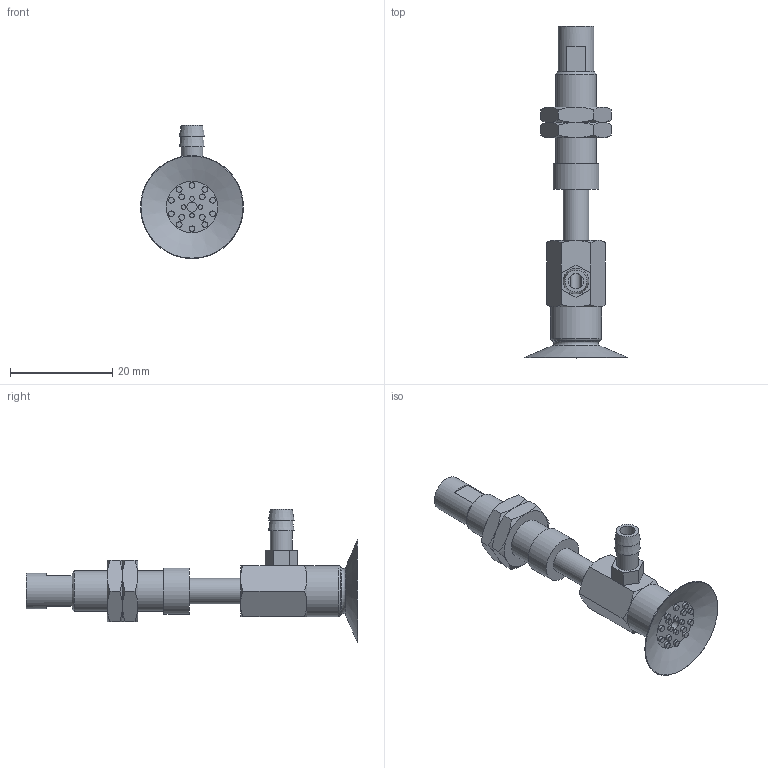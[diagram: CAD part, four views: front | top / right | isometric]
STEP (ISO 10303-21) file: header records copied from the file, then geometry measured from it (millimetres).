
FILE_DESCRIPTION(('STEP AP203'),'1');
FILE_NAME('-T.stp','2025-02-18T01:18:32',(' '),(' '),'Spatial InterOp 3D',' ',' ');
FILE_SCHEMA(('CONFIG_CONTROL_DESIGN'));
Length unit declared in the file: millimetre
Products named in the file (7): BNABPAYS-20A-10-※-T; NAPAYS-20A-10--M; NAPAYS-20A-10--F; Nut-10A-S; CONNECTOR-20A-10-PA; BPAG-20A-※_3D; T
Assembly tree (7 placements, depth 2):
  BNABPAYS-20A-10-※-T
    NAPAYS-20A-10--M
    NAPAYS-20A-10--F
    Nut-10A-S  x2
    CONNECTOR-20A-10-PA
    BPAG-20A-※_3D
    T
Bounding box: 20.19 x 65 x 26.09 mm (x, y, z)
Volume: 3998.5 mm3; surface area: 5204.3 mm2
Topology: 7 solids, 7 shells, 183 faces, 361 edges, 223 vertices
Faces by surface type: plane 81, cone 54, cylinder 38, torus 10
Full cylindrical faces by diameter (mm): 0.9 x4, 1.1 x14, 2 x2, 3 x1, 4 x2, 4.134 x2, 4.3 x1, 5 x4, 6 x2, 7 x1, 7.188 x2, 8 x1, 9 x1, 10 x1
Entity records: 4310 total; most frequent: CARTESIAN_POINT 944, DIRECTION 654, ORIENTED_EDGE 484, AXIS2_PLACEMENT_3D 298, EDGE_LOOP 264, EDGE_CURVE 242, FACE_OUTER_BOUND 207, VERTEX_POINT 186
